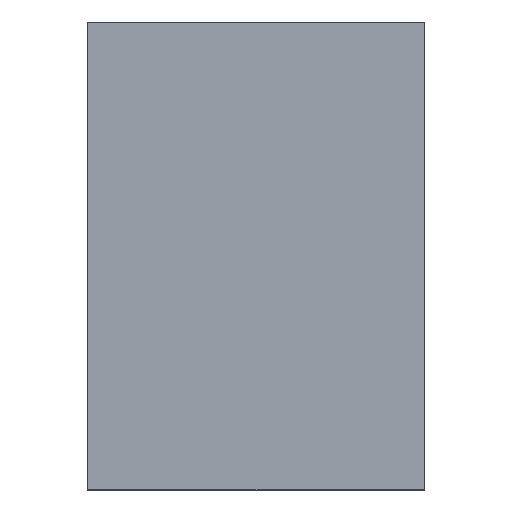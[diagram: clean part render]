
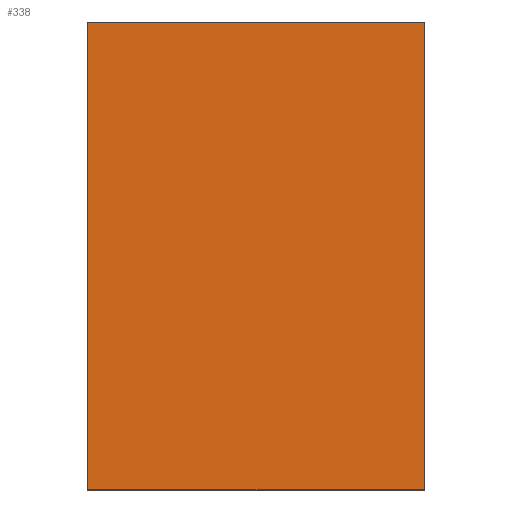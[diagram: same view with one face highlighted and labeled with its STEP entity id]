
A CAD part, top view. The second image highlights one B-rep face of the part: STEP entity #338.
In plain terms, the highlighted planar face has unit normal (0, 0, 1).
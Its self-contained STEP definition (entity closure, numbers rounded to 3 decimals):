
#24 = VERTEX_POINT('',#25);
#25 = CARTESIAN_POINT('',(-18.,33.,15.2));
#32 = PLANE('',#33);
#33 = AXIS2_PLACEMENT_3D('',#34,#35,#36);
#34 = CARTESIAN_POINT('',(-18.,33.,14.));
#35 = DIRECTION('',(1.,0.,0.));
#36 = DIRECTION('',(0.,0.,1.));
#44 = PLANE('',#45);
#45 = AXIS2_PLACEMENT_3D('',#46,#47,#48);
#46 = CARTESIAN_POINT('',(-18.,33.,14.));
#47 = DIRECTION('',(0.,1.,0.));
#48 = DIRECTION('',(0.,0.,1.));
#85 = VERTEX_POINT('',#86);
#86 = CARTESIAN_POINT('',(-18.,83.,15.2));
#100 = PLANE('',#101);
#101 = AXIS2_PLACEMENT_3D('',#102,#103,#104);
#102 = CARTESIAN_POINT('',(-18.,83.,14.));
#103 = DIRECTION('',(0.,1.,0.));
#104 = DIRECTION('',(0.,0.,1.));
#112 = EDGE_CURVE('',#24,#85,#113,.T.);
#113 = SURFACE_CURVE('',#114,(#118,#125),.PCURVE_S1.);
#114 = LINE('',#115,#116);
#115 = CARTESIAN_POINT('',(-18.,33.,15.2));
#116 = VECTOR('',#117,1.);
#117 = DIRECTION('',(0.,1.,0.));
#118 = PCURVE('',#32,#119);
#119 = DEFINITIONAL_REPRESENTATION('',(#120),#124);
#120 = LINE('',#121,#122);
#121 = CARTESIAN_POINT('',(1.2,0.));
#122 = VECTOR('',#123,1.);
#123 = DIRECTION('',(0.,-1.));
#124 = ( GEOMETRIC_REPRESENTATION_CONTEXT(2) 
PARAMETRIC_REPRESENTATION_CONTEXT() REPRESENTATION_CONTEXT('2D SPACE',''
  ) );
#125 = PCURVE('',#126,#131);
#126 = PLANE('',#127);
#127 = AXIS2_PLACEMENT_3D('',#128,#129,#130);
#128 = CARTESIAN_POINT('',(-18.,33.,15.2));
#129 = DIRECTION('',(0.,0.,1.));
#130 = DIRECTION('',(1.,0.,0.));
#131 = DEFINITIONAL_REPRESENTATION('',(#132),#136);
#132 = LINE('',#133,#134);
#133 = CARTESIAN_POINT('',(0.,0.));
#134 = VECTOR('',#135,1.);
#135 = DIRECTION('',(0.,1.));
#136 = ( GEOMETRIC_REPRESENTATION_CONTEXT(2) 
PARAMETRIC_REPRESENTATION_CONTEXT() REPRESENTATION_CONTEXT('2D SPACE',''
  ) );
#144 = VERTEX_POINT('',#145);
#145 = CARTESIAN_POINT('',(18.,33.,15.2));
#152 = PLANE('',#153);
#153 = AXIS2_PLACEMENT_3D('',#154,#155,#156);
#154 = CARTESIAN_POINT('',(18.,33.,14.));
#155 = DIRECTION('',(1.,0.,0.));
#156 = DIRECTION('',(0.,0.,1.));
#195 = VERTEX_POINT('',#196);
#196 = CARTESIAN_POINT('',(18.,83.,15.2));
#217 = EDGE_CURVE('',#144,#195,#218,.T.);
#218 = SURFACE_CURVE('',#219,(#223,#230),.PCURVE_S1.);
#219 = LINE('',#220,#221);
#220 = CARTESIAN_POINT('',(18.,33.,15.2));
#221 = VECTOR('',#222,1.);
#222 = DIRECTION('',(0.,1.,0.));
#223 = PCURVE('',#152,#224);
#224 = DEFINITIONAL_REPRESENTATION('',(#225),#229);
#225 = LINE('',#226,#227);
#226 = CARTESIAN_POINT('',(1.2,0.));
#227 = VECTOR('',#228,1.);
#228 = DIRECTION('',(0.,-1.));
#229 = ( GEOMETRIC_REPRESENTATION_CONTEXT(2) 
PARAMETRIC_REPRESENTATION_CONTEXT() REPRESENTATION_CONTEXT('2D SPACE',''
  ) );
#230 = PCURVE('',#126,#231);
#231 = DEFINITIONAL_REPRESENTATION('',(#232),#236);
#232 = LINE('',#233,#234);
#233 = CARTESIAN_POINT('',(36.,0.));
#234 = VECTOR('',#235,1.);
#235 = DIRECTION('',(0.,1.));
#236 = ( GEOMETRIC_REPRESENTATION_CONTEXT(2) 
PARAMETRIC_REPRESENTATION_CONTEXT() REPRESENTATION_CONTEXT('2D SPACE',''
  ) );
#263 = EDGE_CURVE('',#24,#144,#264,.T.);
#264 = SURFACE_CURVE('',#265,(#269,#276),.PCURVE_S1.);
#265 = LINE('',#266,#267);
#266 = CARTESIAN_POINT('',(-18.,33.,15.2));
#267 = VECTOR('',#268,1.);
#268 = DIRECTION('',(1.,0.,0.));
#269 = PCURVE('',#44,#270);
#270 = DEFINITIONAL_REPRESENTATION('',(#271),#275);
#271 = LINE('',#272,#273);
#272 = CARTESIAN_POINT('',(1.2,0.));
#273 = VECTOR('',#274,1.);
#274 = DIRECTION('',(0.,1.));
#275 = ( GEOMETRIC_REPRESENTATION_CONTEXT(2) 
PARAMETRIC_REPRESENTATION_CONTEXT() REPRESENTATION_CONTEXT('2D SPACE',''
  ) );
#276 = PCURVE('',#126,#277);
#277 = DEFINITIONAL_REPRESENTATION('',(#278),#282);
#278 = LINE('',#279,#280);
#279 = CARTESIAN_POINT('',(0.,0.));
#280 = VECTOR('',#281,1.);
#281 = DIRECTION('',(1.,0.));
#282 = ( GEOMETRIC_REPRESENTATION_CONTEXT(2) 
PARAMETRIC_REPRESENTATION_CONTEXT() REPRESENTATION_CONTEXT('2D SPACE',''
  ) );
#310 = EDGE_CURVE('',#85,#195,#311,.T.);
#311 = SURFACE_CURVE('',#312,(#316,#323),.PCURVE_S1.);
#312 = LINE('',#313,#314);
#313 = CARTESIAN_POINT('',(-18.,83.,15.2));
#314 = VECTOR('',#315,1.);
#315 = DIRECTION('',(1.,0.,0.));
#316 = PCURVE('',#100,#317);
#317 = DEFINITIONAL_REPRESENTATION('',(#318),#322);
#318 = LINE('',#319,#320);
#319 = CARTESIAN_POINT('',(1.2,0.));
#320 = VECTOR('',#321,1.);
#321 = DIRECTION('',(0.,1.));
#322 = ( GEOMETRIC_REPRESENTATION_CONTEXT(2) 
PARAMETRIC_REPRESENTATION_CONTEXT() REPRESENTATION_CONTEXT('2D SPACE',''
  ) );
#323 = PCURVE('',#126,#324);
#324 = DEFINITIONAL_REPRESENTATION('',(#325),#329);
#325 = LINE('',#326,#327);
#326 = CARTESIAN_POINT('',(0.,50.));
#327 = VECTOR('',#328,1.);
#328 = DIRECTION('',(1.,0.));
#329 = ( GEOMETRIC_REPRESENTATION_CONTEXT(2) 
PARAMETRIC_REPRESENTATION_CONTEXT() REPRESENTATION_CONTEXT('2D SPACE',''
  ) );
#338 = ADVANCED_FACE('',(#339),#126,.T.);
#339 = FACE_BOUND('',#340,.T.);
#340 = EDGE_LOOP('',(#341,#342,#343,#344));
#341 = ORIENTED_EDGE('',*,*,#112,.F.);
#342 = ORIENTED_EDGE('',*,*,#263,.T.);
#343 = ORIENTED_EDGE('',*,*,#217,.T.);
#344 = ORIENTED_EDGE('',*,*,#310,.F.);
